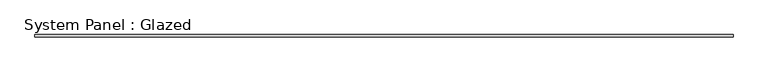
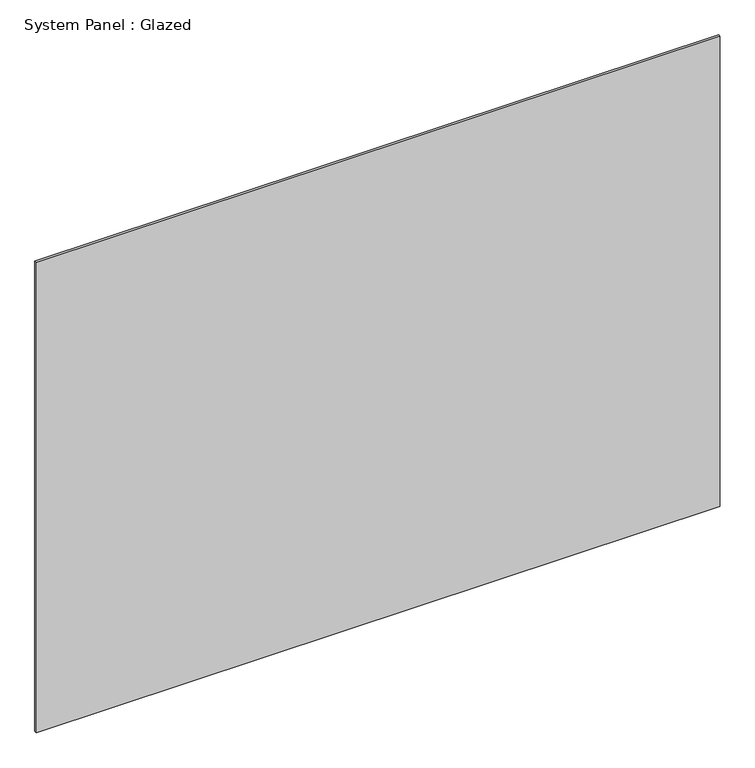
"""IFC4 building model written with IfcOpenShell, lengths in millimetres: plate geometry, System Panel : Glazed."""

import ifcopenshell
import ifcopenshell.guid

model = None  # the IFC model being written
_history = None  # IfcOwnerHistory: only IFC2X3 demands one
_inside = {}  # id of a spatial element -> (the spatial element, [elements in it])
_under = {}  # id of a project, library or spatial element -> (it, [spatial elements below it])
_declared = {}  # id of a project -> (the project, [libraries it declares])
_typed = {}  # id of a type object -> (the type object, [elements of that type])
_made_of = {}  # id of a material, layer set ... -> (it, [elements and type objects made of it])


def new_model(schema):
    """Start an empty IFC model of exactly this schema.

    Asked for "IFC4X3", IfcOpenShell would pick the latest addendum, in which some entities
    have other attributes; the version numbers below select the first issue.
    IFC2X3 requires an IfcOwnerHistory on every rooted entity: one is made here for all.
    """
    global model, _history
    if schema == "IFC4X3":
        model = ifcopenshell.file(schema_version=(4, 3, 0, 0))
    else:
        model = ifcopenshell.file(schema=schema)
    _inside.clear()
    _under.clear()
    _declared.clear()
    _typed.clear()
    _made_of.clear()
    _history = None
    if model.schema == "IFC2X3":
        org = make("IfcOrganization", Name="unknown")
        user = make(
            "IfcPersonAndOrganization",
            ThePerson=make("IfcPerson", FamilyName="unknown"),
            TheOrganization=org,
        )
        app = make(
            "IfcApplication",
            ApplicationDeveloper=org,
            Version="unknown",
            ApplicationFullName="unknown",
            ApplicationIdentifier="unknown",
        )
        _history = make(
            "IfcOwnerHistory",
            OwningUser=user,
            OwningApplication=app,
            ChangeAction="ADDED",
            CreationDate=0,
        )
    return model


def make(cls, **values):
    """One entity of the class cls with the attributes given. An attribute that is None is left unset."""
    return model.create_entity(
        cls, **{name: value for name, value in values.items() if value is not None}
    )


def rooted(cls, **values):
    """An entity with a GlobalId (a new one), such as an element, a storey or a relation."""
    return make(cls, GlobalId=ifcopenshell.guid.new(), OwnerHistory=_history, **values)


def si_unit(unit_type, name, prefix=None):
    """IfcSIUnit, for example si_unit("LENGTHUNIT", "METRE", prefix="MILLI")."""
    return make("IfcSIUnit", UnitType=unit_type, Prefix=prefix, Name=name)


def assignment(units):
    """IfcUnitAssignment: the units of a project."""
    return None if units is None else make("IfcUnitAssignment", Units=units)


def point(xyz):
    """IfcCartesianPoint."""
    return None if xyz is None else make("IfcCartesianPoint", Coordinates=xyz)


def direction(xyz):
    """IfcDirection."""
    return None if xyz is None else make("IfcDirection", DirectionRatios=xyz)


def frame(location, z_axis=None, x_axis=None):
    """IfcAxis2Placement3D, a coordinate frame: its origin and axes. An axis left out is left unset."""
    return make(
        "IfcAxis2Placement3D",
        Location=point(location),
        Axis=direction(z_axis),
        RefDirection=direction(x_axis),
    )


def origin():
    """The frame at (0, 0, 0) with its axes left unset."""
    return frame((0.0, 0.0, 0.0))


def origin_with_axes():
    """The frame at (0, 0, 0) with the z axis (0, 0, 1) and the x axis (1, 0, 0) written out."""
    return frame((0.0, 0.0, 0.0), z_axis=(0.0, 0.0, 1.0), x_axis=(1.0, 0.0, 0.0))


def place(relative_to, where):
    """IfcLocalPlacement: puts the frame where relative to a parent placement (None: the world)."""
    return make(
        "IfcLocalPlacement", PlacementRelTo=relative_to, RelativePlacement=where
    )


def context(
    kind, dimensions, precision=None, world=None, true_north=None, identifier=None
):
    """IfcGeometricRepresentationContext, for example the 3D "Model" context."""
    return make(
        "IfcGeometricRepresentationContext",
        ContextIdentifier=identifier,
        ContextType=kind,
        CoordinateSpaceDimension=dimensions,
        Precision=precision,
        WorldCoordinateSystem=world,
        TrueNorth=true_north,
    )


def project(units=None, contexts=None):
    """IfcProject with its units and contexts."""
    return rooted(
        "IfcProject",
        Name="project",
        RepresentationContexts=contexts,
        UnitsInContext=assignment(units),
    )


def spatial(cls, under=None, at=None, **own):
    """A site, building, storey or space (cls), placed at a placement, below another one or the project."""
    s = rooted(cls, ObjectPlacement=at, **own)
    if under is not None:
        _under.setdefault(under.id(), (under, []))[1].append(s)
    return s


def polyline(points):
    """IfcPolyline through the points."""
    return make("IfcPolyline", Points=[point(p) for p in points])


def outline(outer, holes=None, kind="AREA"):
    """IfcArbitraryClosedProfileDef: a profile drawn as a closed curve; with holes, ...WithVoids."""
    if holes is None:
        return make("IfcArbitraryClosedProfileDef", ProfileType=kind, OuterCurve=outer)
    return make(
        "IfcArbitraryProfileDefWithVoids",
        ProfileType=kind,
        OuterCurve=outer,
        InnerCurves=holes,
    )


def extrude(swept, where, along, depth):
    """IfcExtrudedAreaSolid: the profile swept, set in the frame where, extruded along a direction by depth."""
    return make(
        "IfcExtrudedAreaSolid",
        SweptArea=swept,
        Position=where,
        ExtrudedDirection=direction(along),
        Depth=depth,
    )


def shape(context_of_items, identifier, shape_type, items):
    """IfcShapeRepresentation: the items that make up one representation, for example the "Body"."""
    return make(
        "IfcShapeRepresentation",
        ContextOfItems=context_of_items,
        RepresentationIdentifier=identifier,
        RepresentationType=shape_type,
        Items=items,
    )


def source(mapping_origin, context_of_items, identifier, shape_type, items):
    """IfcRepresentationMap: a shape defined once, which mapped items show again and again."""
    return make(
        "IfcRepresentationMap",
        MappingOrigin=mapping_origin,
        MappedRepresentation=shape(context_of_items, identifier, shape_type, items),
    )


def transform(
    local_origin,
    x_axis=None,
    y_axis=None,
    z_axis=None,
    scale=None,
    scale2=None,
    scale3=None,
    uniform=True,
):
    """IfcCartesianTransformationOperator3D, or its non-uniform kind. x_axis, y_axis, z_axis: its Axis1, 2, 3."""
    if uniform:
        return make(
            "IfcCartesianTransformationOperator3D",
            Axis1=direction(x_axis),
            Axis2=direction(y_axis),
            LocalOrigin=point(local_origin),
            Scale=scale,
            Axis3=direction(z_axis),
        )
    return make(
        "IfcCartesianTransformationOperator3DnonUniform",
        Axis1=direction(x_axis),
        Axis2=direction(y_axis),
        LocalOrigin=point(local_origin),
        Scale=scale,
        Axis3=direction(z_axis),
        Scale2=scale2,
        Scale3=scale3,
    )


def mapped(mapping_source, mapping_target):
    """IfcMappedItem: shows the shape of a source again, moved by a transform."""
    return make(
        "IfcMappedItem", MappingSource=mapping_source, MappingTarget=mapping_target
    )


def made_of(thing, what):
    """Note that an element or type object is made of a material, layer set ...; save() writes the relation."""
    if what is not None:
        _made_of.setdefault(what.id(), (what, []))[1].append(thing)
    return thing


def element(
    cls,
    number,
    at=None,
    inside=None,
    cuts=None,
    type_object=None,
    material=None,
    context=None,
    identifier="Body",
    shape_type=None,
    held_by="IfcProductDefinitionShape",
    body=None,
    shapes=None,
    **own,
):
    """One element of the class cls, such as IfcWall. Its Tag is "e" and its number.

    at: its placement. inside: the storey or other place that contains it. cuts: it is an
    opening in that element (IfcRelVoidsElement). A single representation is given by context,
    identifier, shape_type and body (its items); several are given by shapes. held_by: the class
    of the entity that holds the representations. save() writes the other relations.
    """
    e = rooted(cls, Tag="e%d" % number, ObjectPlacement=at, **own)
    if body is not None:
        shapes = [shape(context, identifier, shape_type, body)]
    if shapes is not None:
        e.Representation = make(held_by, Representations=shapes)
    if inside is not None:
        _inside.setdefault(inside.id(), (inside, []))[1].append(e)
    if cuts is not None:
        rooted(
            "IfcRelVoidsElement", RelatingBuildingElement=cuts, RelatedOpeningElement=e
        )
    if type_object is not None:
        _typed.setdefault(type_object.id(), (type_object, []))[1].append(e)
    return made_of(e, material)


def aggregate(whole, parts):
    """IfcRelAggregates: a whole, such as a stair, and the parts it consists of."""
    return rooted("IfcRelAggregates", RelatingObject=whole, RelatedObjects=parts)


def save(model, path):
    """Write the relations noted so far, then the file.

    IfcRelAggregates (storeys below a building ...), IfcRelContainedInSpatialStructure (elements
    in a storey), IfcRelDefinesByType, IfcRelAssociatesMaterial and IfcRelDeclares: one each for
    every whole, place, type object, material and project.
    """
    for whole, parts in _under.values():
        aggregate(whole, parts)
    for where, things in _inside.values():
        rooted(
            "IfcRelContainedInSpatialStructure",
            RelatedElements=things,
            RelatingStructure=where,
        )
    for kind, things in _typed.values():
        rooted("IfcRelDefinesByType", RelatedObjects=things, RelatingType=kind)
    for what, things in _made_of.values():
        rooted("IfcRelAssociatesMaterial", RelatedObjects=things, RelatingMaterial=what)
    for by, libraries in _declared.values():
        rooted("IfcRelDeclares", RelatingContext=by, RelatedDefinitions=libraries)
    model.write(path)


def system_panel_glazed_13d4595b(model_context):
    return source(origin(), model_context, "Body", "SweptSolid", [
        extrude(outline(polyline([(1445.0, -10.0), (-1445.0, -10.0), (-1445.0, 0.0), (1445.0, 0.0), (1445.0, -10.0)])), origin_with_axes(), (0.0, 0.0, 1.0), 2100.0),
    ])


if __name__ == "__main__":
    model = new_model("IFC4")
    model_context = context("Model", 3, world=origin())
    ifc_project = project(units=[si_unit("LENGTHUNIT", "METRE", prefix="MILLI")], contexts=[model_context])
    site = spatial("IfcSite", under=ifc_project)
    building = spatial("IfcBuilding", under=site)
    placement = place(None, origin())
    system_panel_glazed_shape = system_panel_glazed_13d4595b(model_context)
    element("IfcPlate", 1, ObjectType="System Panel : Glazed", at=placement, inside=building, context=model_context, shape_type="MappedRepresentation", body=[
        mapped(system_panel_glazed_shape, transform((0.0, 0.0, 0.0), x_axis=(1.0, 0.0, 0.0), y_axis=(0.0, 1.0, 0.0), z_axis=(0.0, 0.0, 1.0))),
    ])
    save(model, "model.ifc")
